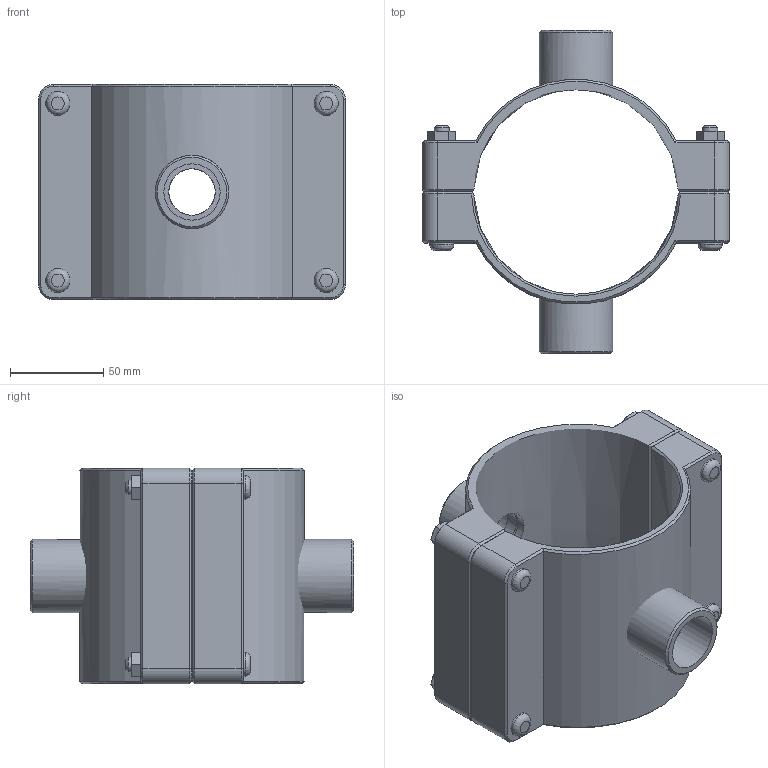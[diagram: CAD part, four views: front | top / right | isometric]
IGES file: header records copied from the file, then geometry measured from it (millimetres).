
Global section: file name: 161760110010_161860110010.ipt; native system: Autodesk Inventor 2015; preprocessor: unknown; author: KIM; date: 20170618.093739; units: millimetre
Bounding box: 165 x 174 x 116 mm (x, y, z)
Volume: 566109.1 mm3; surface area: 130706 mm2
Topology: 3 solids, 3 shells, 151 faces, 350 edges, 221 vertices
Faces by surface type: plane 84, cone 26, cylinder 24, revolution 17
Full cylindrical faces by diameter (mm): 8 x4, 13 x8, 39.378 x2
